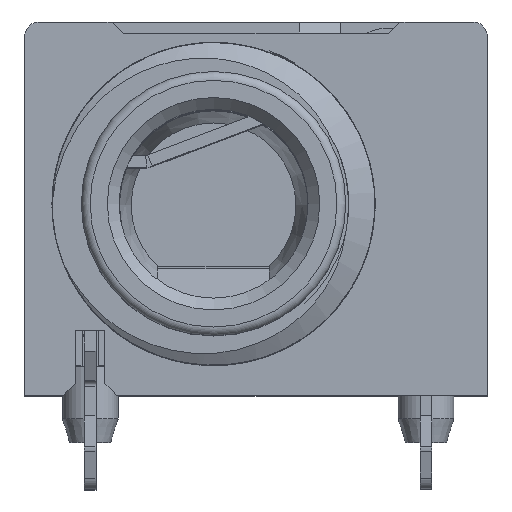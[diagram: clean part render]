
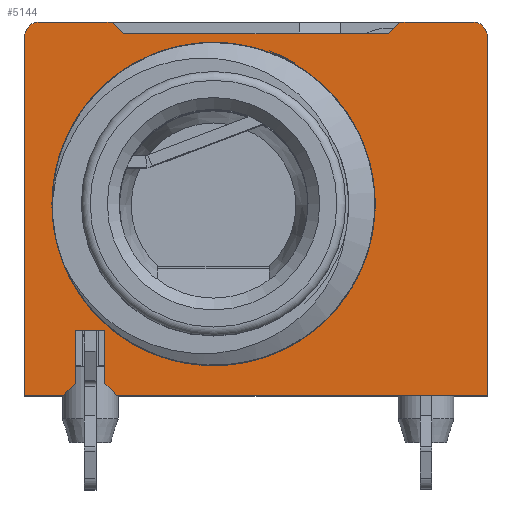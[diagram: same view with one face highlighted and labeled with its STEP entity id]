
A CAD part, top view. The second image highlights one B-rep face of the part: STEP entity #5144.
In plain terms, the highlighted planar face has unit normal (0, 0, 1).
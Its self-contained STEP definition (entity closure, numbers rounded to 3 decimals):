
#5144 = ADVANCED_FACE('',(#5145,#5277),#5314,.F.);
#5145 = FACE_BOUND('',#5146,.T.);
#5146 = EDGE_LOOP('',(#5147,#5157,#5165,#5173,#5181,#5190,#5198,#5206,
    #5214,#5222,#5230,#5239,#5247,#5255,#5263,#5271));
#5147 = ORIENTED_EDGE('',*,*,#5148,.F.);
#5148 = EDGE_CURVE('',#5149,#5151,#5153,.T.);
#5149 = VERTEX_POINT('',#5150);
#5150 = CARTESIAN_POINT('',(-3.7,-6.1,0.));
#5151 = VERTEX_POINT('',#5152);
#5152 = CARTESIAN_POINT('',(-3.7,-4.3,0.));
#5153 = LINE('',#5154,#5155);
#5154 = CARTESIAN_POINT('',(-3.7,-6.1,0.));
#5155 = VECTOR('',#5156,1.);
#5156 = DIRECTION('',(0.,1.,0.));
#5157 = ORIENTED_EDGE('',*,*,#5158,.T.);
#5158 = EDGE_CURVE('',#5149,#5159,#5161,.T.);
#5159 = VERTEX_POINT('',#5160);
#5160 = CARTESIAN_POINT('',(-3.3,-6.5,0.));
#5161 = LINE('',#5162,#5163);
#5162 = CARTESIAN_POINT('',(-3.7,-6.1,0.));
#5163 = VECTOR('',#5164,1.);
#5164 = DIRECTION('',(0.707,-0.707,0.));
#5165 = ORIENTED_EDGE('',*,*,#5166,.F.);
#5166 = EDGE_CURVE('',#5167,#5159,#5169,.T.);
#5167 = VERTEX_POINT('',#5168);
#5168 = CARTESIAN_POINT('',(9.32,-6.5,0.));
#5169 = LINE('',#5170,#5171);
#5170 = CARTESIAN_POINT('',(9.32,-6.5,0.));
#5171 = VECTOR('',#5172,1.);
#5172 = DIRECTION('',(-1.,0.,0.));
#5173 = ORIENTED_EDGE('',*,*,#5174,.F.);
#5174 = EDGE_CURVE('',#5175,#5167,#5177,.T.);
#5175 = VERTEX_POINT('',#5176);
#5176 = CARTESIAN_POINT('',(9.32,5.7,0.));
#5177 = LINE('',#5178,#5179);
#5178 = CARTESIAN_POINT('',(9.32,5.7,0.));
#5179 = VECTOR('',#5180,1.);
#5180 = DIRECTION('',(0.,-1.,0.));
#5181 = ORIENTED_EDGE('',*,*,#5182,.F.);
#5182 = EDGE_CURVE('',#5183,#5175,#5185,.T.);
#5183 = VERTEX_POINT('',#5184);
#5184 = CARTESIAN_POINT('',(8.82,6.2,0.));
#5185 = CIRCLE('',#5186,0.5);
#5186 = AXIS2_PLACEMENT_3D('',#5187,#5188,#5189);
#5187 = CARTESIAN_POINT('',(8.82,5.7,0.));
#5188 = DIRECTION('',(0.,0.,-1.));
#5189 = DIRECTION('',(1.,0.,0.));
#5190 = ORIENTED_EDGE('',*,*,#5191,.F.);
#5191 = EDGE_CURVE('',#5192,#5183,#5194,.T.);
#5192 = VERTEX_POINT('',#5193);
#5193 = CARTESIAN_POINT('',(6.345,6.2,0.));
#5194 = LINE('',#5195,#5196);
#5195 = CARTESIAN_POINT('',(6.345,6.2,0.));
#5196 = VECTOR('',#5197,1.);
#5197 = DIRECTION('',(1.,0.,0.));
#5198 = ORIENTED_EDGE('',*,*,#5199,.F.);
#5199 = EDGE_CURVE('',#5200,#5192,#5202,.T.);
#5200 = VERTEX_POINT('',#5201);
#5201 = CARTESIAN_POINT('',(5.945,5.8,0.));
#5202 = LINE('',#5203,#5204);
#5203 = CARTESIAN_POINT('',(5.945,5.8,0.));
#5204 = VECTOR('',#5205,1.);
#5205 = DIRECTION('',(0.707,0.707,0.));
#5206 = ORIENTED_EDGE('',*,*,#5207,.F.);
#5207 = EDGE_CURVE('',#5208,#5200,#5210,.T.);
#5208 = VERTEX_POINT('',#5209);
#5209 = CARTESIAN_POINT('',(-3.055,5.8,0.));
#5210 = LINE('',#5211,#5212);
#5211 = CARTESIAN_POINT('',(-3.055,5.8,0.));
#5212 = VECTOR('',#5213,1.);
#5213 = DIRECTION('',(1.,0.,0.));
#5214 = ORIENTED_EDGE('',*,*,#5215,.F.);
#5215 = EDGE_CURVE('',#5216,#5208,#5218,.T.);
#5216 = VERTEX_POINT('',#5217);
#5217 = CARTESIAN_POINT('',(-3.455,6.2,0.));
#5218 = LINE('',#5219,#5220);
#5219 = CARTESIAN_POINT('',(-3.455,6.2,0.));
#5220 = VECTOR('',#5221,1.);
#5221 = DIRECTION('',(0.707,-0.707,0.));
#5222 = ORIENTED_EDGE('',*,*,#5223,.F.);
#5223 = EDGE_CURVE('',#5224,#5216,#5226,.T.);
#5224 = VERTEX_POINT('',#5225);
#5225 = CARTESIAN_POINT('',(-5.93,6.2,0.));
#5226 = LINE('',#5227,#5228);
#5227 = CARTESIAN_POINT('',(-5.93,6.2,0.));
#5228 = VECTOR('',#5229,1.);
#5229 = DIRECTION('',(1.,0.,0.));
#5230 = ORIENTED_EDGE('',*,*,#5231,.F.);
#5231 = EDGE_CURVE('',#5232,#5224,#5234,.T.);
#5232 = VERTEX_POINT('',#5233);
#5233 = CARTESIAN_POINT('',(-6.43,5.7,0.));
#5234 = CIRCLE('',#5235,0.5);
#5235 = AXIS2_PLACEMENT_3D('',#5236,#5237,#5238);
#5236 = CARTESIAN_POINT('',(-5.93,5.7,0.));
#5237 = DIRECTION('',(0.,0.,-1.));
#5238 = DIRECTION('',(1.,0.,0.));
#5239 = ORIENTED_EDGE('',*,*,#5240,.F.);
#5240 = EDGE_CURVE('',#5241,#5232,#5243,.T.);
#5241 = VERTEX_POINT('',#5242);
#5242 = CARTESIAN_POINT('',(-6.43,-6.5,0.));
#5243 = LINE('',#5244,#5245);
#5244 = CARTESIAN_POINT('',(-6.43,-6.5,0.));
#5245 = VECTOR('',#5246,1.);
#5246 = DIRECTION('',(0.,1.,0.));
#5247 = ORIENTED_EDGE('',*,*,#5248,.F.);
#5248 = EDGE_CURVE('',#5249,#5241,#5251,.T.);
#5249 = VERTEX_POINT('',#5250);
#5250 = CARTESIAN_POINT('',(-5.1,-6.5,0.));
#5251 = LINE('',#5252,#5253);
#5252 = CARTESIAN_POINT('',(-5.1,-6.5,0.));
#5253 = VECTOR('',#5254,1.);
#5254 = DIRECTION('',(-1.,0.,0.));
#5255 = ORIENTED_EDGE('',*,*,#5256,.T.);
#5256 = EDGE_CURVE('',#5249,#5257,#5259,.T.);
#5257 = VERTEX_POINT('',#5258);
#5258 = CARTESIAN_POINT('',(-4.7,-6.1,0.));
#5259 = LINE('',#5260,#5261);
#5260 = CARTESIAN_POINT('',(-5.1,-6.5,0.));
#5261 = VECTOR('',#5262,1.);
#5262 = DIRECTION('',(0.707,0.707,0.));
#5263 = ORIENTED_EDGE('',*,*,#5264,.T.);
#5264 = EDGE_CURVE('',#5257,#5265,#5267,.T.);
#5265 = VERTEX_POINT('',#5266);
#5266 = CARTESIAN_POINT('',(-4.7,-4.3,0.));
#5267 = LINE('',#5268,#5269);
#5268 = CARTESIAN_POINT('',(-4.7,-6.1,0.));
#5269 = VECTOR('',#5270,1.);
#5270 = DIRECTION('',(0.,1.,0.));
#5271 = ORIENTED_EDGE('',*,*,#5272,.F.);
#5272 = EDGE_CURVE('',#5151,#5265,#5273,.T.);
#5273 = LINE('',#5274,#5275);
#5274 = CARTESIAN_POINT('',(-3.7,-4.3,0.));
#5275 = VECTOR('',#5276,1.);
#5276 = DIRECTION('',(-1.,0.,0.));
#5277 = FACE_BOUND('',#5278,.T.);
#5278 = EDGE_LOOP('',(#5279,#5289,#5298,#5307));
#5279 = ORIENTED_EDGE('',*,*,#5280,.F.);
#5280 = EDGE_CURVE('',#5281,#5283,#5285,.T.);
#5281 = VERTEX_POINT('',#5282);
#5282 = CARTESIAN_POINT('',(2.743,4.767,0.));
#5283 = VERTEX_POINT('',#5284);
#5284 = CARTESIAN_POINT('',(2.768,4.81,0.)
  );
#5285 = LINE('',#5286,#5287);
#5286 = CARTESIAN_POINT('',(2.743,4.767,0.));
#5287 = VECTOR('',#5288,1.);
#5288 = DIRECTION('',(0.499,0.867,0.));
#5289 = ORIENTED_EDGE('',*,*,#5290,.F.);
#5290 = EDGE_CURVE('',#5291,#5281,#5293,.T.);
#5291 = VERTEX_POINT('',#5292);
#5292 = CARTESIAN_POINT('',(2.594,4.85,0.)
  );
#5293 = CIRCLE('',#5294,5.5);
#5294 = AXIS2_PLACEMENT_3D('',#5295,#5296,#5297);
#5295 = CARTESIAN_POINT('',(0.,0.,0.));
#5296 = DIRECTION('',(0.,0.,1.));
#5297 = DIRECTION('',(-1.,0.,0.));
#5298 = ORIENTED_EDGE('',*,*,#5299,.T.);
#5299 = EDGE_CURVE('',#5291,#5300,#5302,.T.);
#5300 = VERTEX_POINT('',#5301);
#5301 = CARTESIAN_POINT('',(1.898,5.215,0.)
  );
#5302 = ELLIPSE('',#5303,4.747,3.95);
#5303 = AXIS2_PLACEMENT_3D('',#5304,#5305,#5306);
#5304 = CARTESIAN_POINT('',(0.296,1.604,0.)
  );
#5305 = DIRECTION('',(0.,0.,1.));
#5306 = DIRECTION('',(0.919,-0.394,0.)
  );
#5307 = ORIENTED_EDGE('',*,*,#5308,.T.);
#5308 = EDGE_CURVE('',#5300,#5283,#5309,.T.);
#5309 = ELLIPSE('',#5310,4.764,3.965);
#5310 = AXIS2_PLACEMENT_3D('',#5311,#5312,#5313);
#5311 = CARTESIAN_POINT('',(0.612,1.461,0.)
  );
#5312 = DIRECTION('',(0.,0.,-1.));
#5313 = DIRECTION('',(0.922,-0.387,0.
    ));
#5314 = PLANE('',#5315);
#5315 = AXIS2_PLACEMENT_3D('',#5316,#5317,#5318);
#5316 = CARTESIAN_POINT('',(-5.93,5.7,0.));
#5317 = DIRECTION('',(0.,0.,-1.));
#5318 = DIRECTION('',(-1.,0.,0.));
